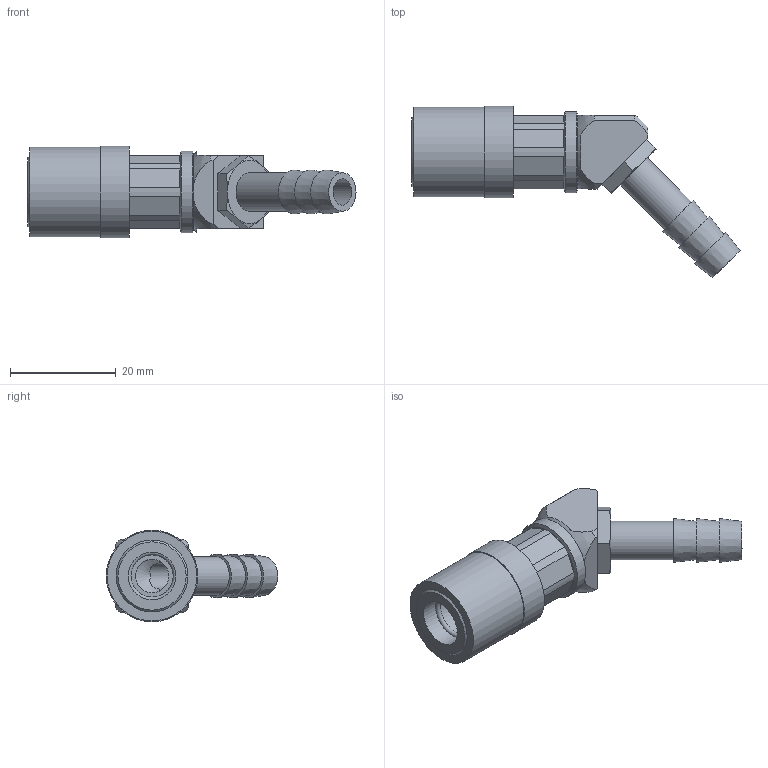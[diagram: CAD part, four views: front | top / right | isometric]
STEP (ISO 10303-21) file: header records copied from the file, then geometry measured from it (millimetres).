
FILE_DESCRIPTION(/* description */ ('STEP AP214'),/* implementation_level */ '2;1');
FILE_NAME(/* name */ 'SK306',/* time_stamp */ '2024-12-19T09:33:11+01:00',/* author */ ('License CC BY-ND 4.0'),/* organization */ ('CADENAS'),/* preprocessor_version */ 'ST-DEVELOPER v19.3',/* originating_system */ 'PARTsolutions',/* authorisation */ ' ');
FILE_SCHEMA (('AUTOMOTIVE_DESIGN {1 0 10303 214 3 1 1}'));
Length unit declared in the file: millimetre
Products named in the file (1): SK306
Bounding box: 62.13 x 32.46 x 17.34 mm (x, y, z)
Volume: 7420.2 mm3; surface area: 4705.6 mm2
Topology: 1 solids, 1 shells, 84 faces, 179 edges, 115 vertices
Faces by surface type: plane 56, cone 13, cylinder 10, sphere 4, torus 1
Full cylindrical faces by diameter (mm): 5 x1, 6.299 x1, 7.3 x1, 9 x2, 13.97 x1, 15.367 x1, 17 x1, 17.34 x1
Entity records: 2248 total; most frequent: CARTESIAN_POINT 432, DIRECTION 392, ORIENTED_EDGE 320, AXIS2_PLACEMENT_3D 162, EDGE_CURVE 160, EDGE_LOOP 120, FACE_BOUND 120, VERTEX_POINT 112
